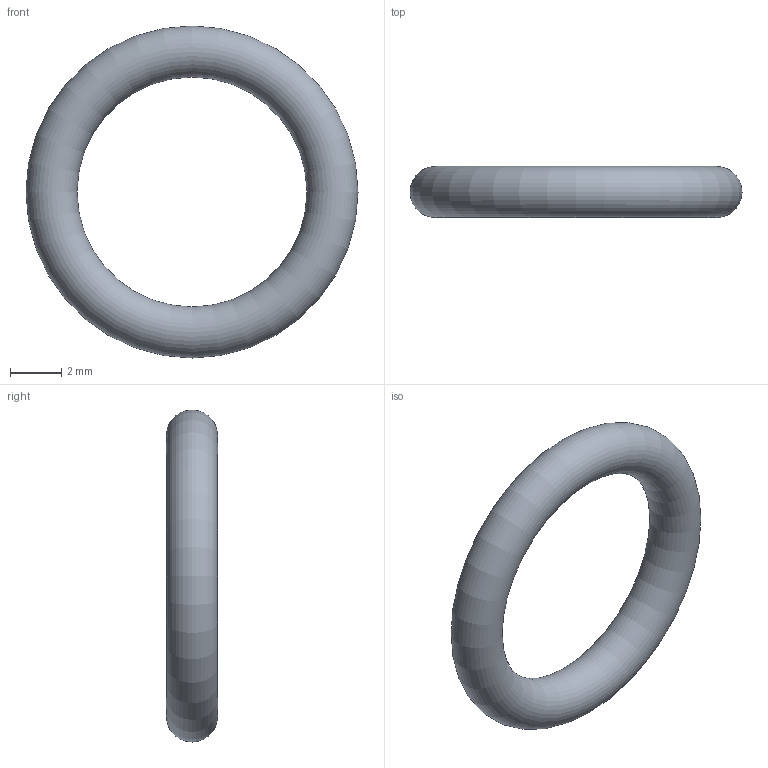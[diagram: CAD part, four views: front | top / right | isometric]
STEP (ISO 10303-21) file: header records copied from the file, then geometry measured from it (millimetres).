
FILE_DESCRIPTION( ( 'STEP AP203' ), '1' );
FILE_NAME( 'C:/Temp/Ganter_Step_05_03_2020/data/3_5/or638/O-Ring OR638-9.00-2.00-70.stp', '2020-03-12T13:44:21', ( 'License CC BY-ND 4.0' ), ( 'CADENAS' ), ' ', 'PARTsolutions', ' ' );
FILE_SCHEMA( ( 'CONFIG_CONTROL_DESIGN' ) );
Length unit declared in the file: millimetre
Products named in the file (1): _O-Ring OR638-9.00-2.00-70
Bounding box: 13 x 2 x 13 mm (x, y, z)
Volume: 108.6 mm3; surface area: 217.1 mm2
Topology: 1 solids, 1 shells, 1 faces, 2 edges, 1 vertices
Faces by surface type: torus 1
Entity records: 62 total; most frequent: CC_DESIGN_PERSON_AND_ORGANIZATION_ASSIGNMENT 5, PERSON_AND_ORGANIZATION_ROLE 4, DIRECTION 4, CARTESIAN_POINT 3, DATE_TIME_ROLE 2, CC_DESIGN_DATE_AND_TIME_ASSIGNMENT 2, AXIS2_PLACEMENT_3D 2, DIMENSIONAL_EXPONENTS 2
